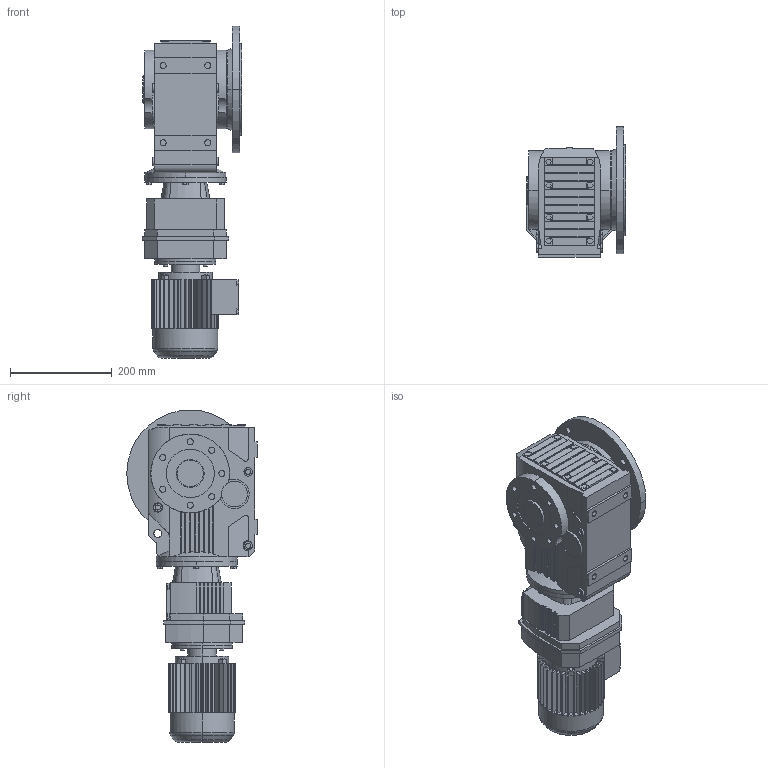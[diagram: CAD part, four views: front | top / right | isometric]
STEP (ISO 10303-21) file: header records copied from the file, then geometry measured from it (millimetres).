
FILE_DESCRIPTION(('Open CASCADE Model'),'2;1');
FILE_NAME('Open CASCADE Shape Model','2021-07-24T17:58:03',('Author'),( 'Open CASCADE'),'Open CASCADE STEP processor 6.3','Open CASCADE 6.3' ,'Unknown');
FILE_SCHEMA(('AUTOMOTIVE_DESIGN_CC2 { 1 2 10303 214 -1 1 5 4 }'));
Length unit declared in the file: millimetre
Products named in the file (6): 1_KAF57R37DR63-A; KA37‵107_57.step; 萇儂_120-DR63-191-246-132-105.step; R_57_37.step; す瑩諾陑粣K_57.step; 楊擘K_57.step
Assembly tree (5 placements, depth 2):
  1_KAF57R37DR63-A
    KA37‵107_57.step
    萇儂_120-DR63-191-246-132-105.step
    R_57_37.step
    す瑩諾陑粣K_57.step
    楊擘K_57.step
Bounding box: 196 x 257 x 654 mm (x, y, z)
Volume: 12687950.6 mm3; surface area: 827976.5 mm2
Topology: 5 solids, 5 shells, 1118 faces, 2932 edges, 1915 vertices
Faces by surface type: plane 754, cylinder 342, cone 18, torus 4
Entity records: 81435 total; most frequent: CARTESIAN_POINT 25883, DIRECTION 9436, ORIENTED_EDGE 5864, PCURVE 5864, DEFINITIONAL_REPRESENTATION 5864, LINE 5197, VECTOR 5197, EDGE_CURVE 2932
